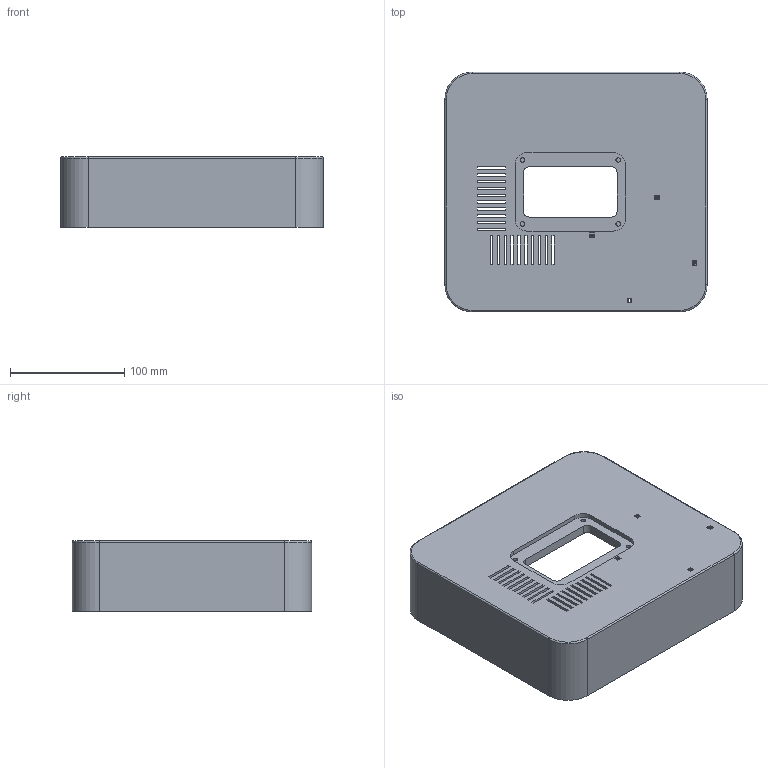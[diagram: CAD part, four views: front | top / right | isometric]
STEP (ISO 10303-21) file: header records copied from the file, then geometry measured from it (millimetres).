
FILE_DESCRIPTION(/* description */ ('Structural enclosure. Provisional first packaging revision; insert fits and yaw support require physical verification.'),/* implementation_level */ '2;1');
FILE_NAME(/* name */ '01 Base shell.step',/* time_stamp */ '2026-10-02T21:30:19+01:00',/* author */ (''),/* organization */ (''),/* preprocessor_version */ 'ST-DEVELOPER v20.2',/* originating_system */ 'Autodesk Translation Framework v15.15.0.0',/* authorisation */ '');
FILE_SCHEMA (('AUTOMOTIVE_DESIGN { 1 0 10303 214 3 1 1 }'));
Length unit declared in the file: millimetre
Products named in the file (1): 2026-10-02-21-30-18-650
Bounding box: 230 x 210 x 61.7 mm (x, y, z)
Volume: 391647.7 mm3; surface area: 207306.5 mm2
Topology: 1 solids, 1 shells, 308 faces, 812 edges, 528 vertices
Faces by surface type: plane 222, cylinder 82, torus 4
Full cylindrical faces by diameter (mm): 1.9 x3, 3.4 x8, 3.6 x4, 4 x14, 6 x7, 10 x4
Entity records: 9668 total; most frequent: CARTESIAN_POINT 1649, DIRECTION 1630, ORIENTED_EDGE 1624, EDGE_CURVE 812, LINE 612, VECTOR 612, VERTEX_POINT 528, AXIS2_PLACEMENT_3D 509
